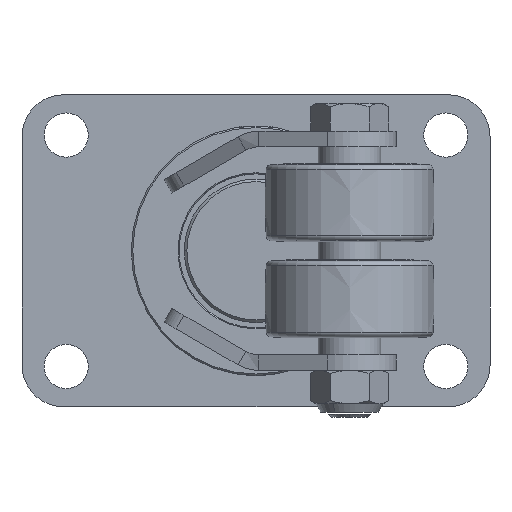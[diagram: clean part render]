
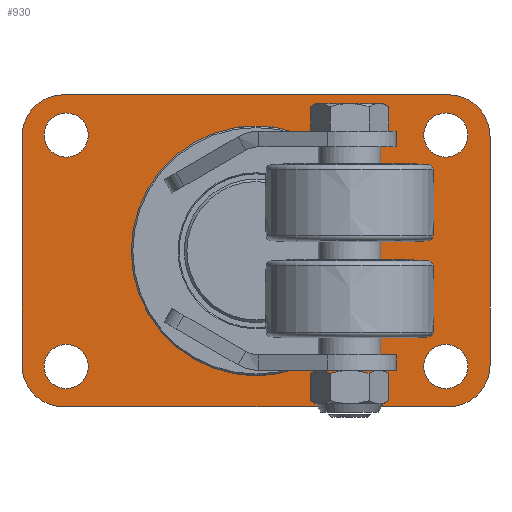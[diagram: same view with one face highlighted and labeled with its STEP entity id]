
A CAD part, front view. The second image highlights one B-rep face of the part: STEP entity #930.
In plain terms, the highlighted planar face has unit normal (0, -1, 0).
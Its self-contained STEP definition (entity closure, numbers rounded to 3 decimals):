
#204=CARTESIAN_POINT('',(0.,-4.,0.));
#205=DIRECTION('',(0.,-1.,0.));
#206=DIRECTION('',(-1.,0.,0.));
#207=AXIS2_PLACEMENT_3D('',#204,#205,#206);
#209=CARTESIAN_POINT('',(0.,-4.,0.));
#210=DIRECTION('',(0.,-1.,0.));
#211=DIRECTION('',(1.,0.,0.));
#212=AXIS2_PLACEMENT_3D('',#209,#210,#211);
#214=CARTESIAN_POINT('',(-36.5,-4.,-22.25));
#215=DIRECTION('',(0.,1.,0.));
#216=DIRECTION('',(1.,0.,0.));
#217=AXIS2_PLACEMENT_3D('',#214,#215,#216);
#219=CARTESIAN_POINT('',(-36.5,-4.,-22.25));
#220=DIRECTION('',(0.,1.,0.));
#221=DIRECTION('',(-1.,0.,0.));
#222=AXIS2_PLACEMENT_3D('',#219,#220,#221);
#224=CARTESIAN_POINT('',(-36.5,-4.,22.25));
#225=DIRECTION('',(0.,1.,0.));
#226=DIRECTION('',(1.,0.,0.));
#227=AXIS2_PLACEMENT_3D('',#224,#225,#226);
#229=CARTESIAN_POINT('',(-36.5,-4.,22.25));
#230=DIRECTION('',(0.,1.,0.));
#231=DIRECTION('',(-1.,0.,0.));
#232=AXIS2_PLACEMENT_3D('',#229,#230,#231);
#234=CARTESIAN_POINT('',(36.5,-4.,22.25));
#235=DIRECTION('',(0.,1.,0.));
#236=DIRECTION('',(1.,0.,0.));
#237=AXIS2_PLACEMENT_3D('',#234,#235,#236);
#239=CARTESIAN_POINT('',(36.5,-4.,22.25));
#240=DIRECTION('',(0.,1.,0.));
#241=DIRECTION('',(-1.,0.,0.));
#242=AXIS2_PLACEMENT_3D('',#239,#240,#241);
#244=CARTESIAN_POINT('',(36.5,-4.,-22.25));
#245=DIRECTION('',(0.,1.,0.));
#246=DIRECTION('',(1.,0.,0.));
#247=AXIS2_PLACEMENT_3D('',#244,#245,#246);
#249=CARTESIAN_POINT('',(36.5,-4.,-22.25));
#250=DIRECTION('',(0.,1.,0.));
#251=DIRECTION('',(-1.,0.,0.));
#252=AXIS2_PLACEMENT_3D('',#249,#250,#251);
#254=CARTESIAN_POINT('',(-37.,-4.,-22.));
#255=DIRECTION('',(0.,-1.,0.));
#256=DIRECTION('',(-1.,0.,0.));
#257=AXIS2_PLACEMENT_3D('',#254,#255,#256);
#259=DIRECTION('',(0.,0.,-1.));
#260=VECTOR('',#259,44.);
#261=CARTESIAN_POINT('',(-45.,-4.,22.));
#262=LINE('',#261,#260);
#263=CARTESIAN_POINT('',(-37.,-4.,22.));
#264=DIRECTION('',(0.,-1.,0.));
#265=DIRECTION('',(0.,0.,1.));
#266=AXIS2_PLACEMENT_3D('',#263,#264,#265);
#268=DIRECTION('',(-1.,0.,0.));
#269=VECTOR('',#268,74.);
#270=CARTESIAN_POINT('',(37.,-4.,30.));
#271=LINE('',#270,#269);
#272=CARTESIAN_POINT('',(37.,-4.,22.));
#273=DIRECTION('',(0.,-1.,0.));
#274=DIRECTION('',(1.,0.,0.));
#275=AXIS2_PLACEMENT_3D('',#272,#273,#274);
#277=DIRECTION('',(0.,0.,1.));
#278=VECTOR('',#277,44.);
#279=CARTESIAN_POINT('',(45.,-4.,-22.));
#280=LINE('',#279,#278);
#281=CARTESIAN_POINT('',(37.,-4.,-22.));
#282=DIRECTION('',(0.,-1.,0.));
#283=DIRECTION('',(0.,0.,-1.));
#284=AXIS2_PLACEMENT_3D('',#281,#282,#283);
#286=DIRECTION('',(1.,0.,0.));
#287=VECTOR('',#286,74.);
#288=CARTESIAN_POINT('',(-37.,-4.,-30.));
#289=LINE('',#288,#287);
#352=CARTESIAN_POINT('',(-32.25,-4.,-22.25));
#353=VERTEX_POINT('',#352);
#354=CARTESIAN_POINT('',(-40.75,-4.,-22.25));
#355=VERTEX_POINT('',#354);
#356=CARTESIAN_POINT('',(-32.25,-4.,22.25));
#357=VERTEX_POINT('',#356);
#358=CARTESIAN_POINT('',(-40.75,-4.,22.25));
#359=VERTEX_POINT('',#358);
#360=CARTESIAN_POINT('',(40.75,-4.,22.25));
#361=VERTEX_POINT('',#360);
#362=CARTESIAN_POINT('',(32.25,-4.,22.25));
#363=VERTEX_POINT('',#362);
#364=CARTESIAN_POINT('',(40.75,-4.,-22.25));
#365=VERTEX_POINT('',#364);
#366=CARTESIAN_POINT('',(32.25,-4.,-22.25));
#367=VERTEX_POINT('',#366);
#372=CARTESIAN_POINT('',(-45.,-4.,-22.));
#373=VERTEX_POINT('',#372);
#374=CARTESIAN_POINT('',(-37.,-4.,-30.));
#375=VERTEX_POINT('',#374);
#380=CARTESIAN_POINT('',(-37.,-4.,30.));
#381=VERTEX_POINT('',#380);
#382=CARTESIAN_POINT('',(-45.,-4.,22.));
#383=VERTEX_POINT('',#382);
#388=CARTESIAN_POINT('',(45.,-4.,22.));
#389=VERTEX_POINT('',#388);
#390=CARTESIAN_POINT('',(37.,-4.,30.));
#391=VERTEX_POINT('',#390);
#396=CARTESIAN_POINT('',(37.,-4.,-30.));
#397=VERTEX_POINT('',#396);
#398=CARTESIAN_POINT('',(45.,-4.,-22.));
#399=VERTEX_POINT('',#398);
#400=CARTESIAN_POINT('',(-23.6,-4.,0.));
#401=CARTESIAN_POINT('',(23.6,-4.,0.));
#402=VERTEX_POINT('',#400);
#403=VERTEX_POINT('',#401);
#893=CARTESIAN_POINT('',(0.,-4.,0.));
#894=DIRECTION('',(0.,-1.,0.));
#895=DIRECTION('',(-1.,0.,0.));
#896=AXIS2_PLACEMENT_3D('',#893,#894,#895);
#897=PLANE('',#896);
#898=ORIENTED_EDGE('',*,*,#820,.F.);
#899=ORIENTED_EDGE('',*,*,#801,.F.);
#900=ORIENTED_EDGE('',*,*,#840,.F.);
#901=ORIENTED_EDGE('',*,*,#779,.F.);
#902=ORIENTED_EDGE('',*,*,#860,.F.);
#903=ORIENTED_EDGE('',*,*,#757,.F.);
#904=ORIENTED_EDGE('',*,*,#880,.F.);
#905=ORIENTED_EDGE('',*,*,#732,.F.);
#906=EDGE_LOOP('',(#898,#899,#900,#901,#902,#903,#904,#905));
#907=FACE_OUTER_BOUND('',#906,.F.);
#908=ORIENTED_EDGE('',*,*,#565,.F.);
#909=ORIENTED_EDGE('',*,*,#586,.F.);
#910=EDGE_LOOP('',(#908,#909));
#911=FACE_BOUND('',#910,.F.);
#912=ORIENTED_EDGE('',*,*,#607,.F.);
#913=ORIENTED_EDGE('',*,*,#628,.F.);
#914=EDGE_LOOP('',(#912,#913));
#915=FACE_BOUND('',#914,.F.);
#916=ORIENTED_EDGE('',*,*,#649,.F.);
#917=ORIENTED_EDGE('',*,*,#670,.F.);
#918=EDGE_LOOP('',(#916,#917));
#919=FACE_BOUND('',#918,.F.);
#920=ORIENTED_EDGE('',*,*,#691,.F.);
#921=ORIENTED_EDGE('',*,*,#712,.F.);
#922=EDGE_LOOP('',(#920,#921));
#923=FACE_BOUND('',#922,.F.);
#925=ORIENTED_EDGE('',*,*,#924,.T.);
#927=ORIENTED_EDGE('',*,*,#926,.T.);
#928=EDGE_LOOP('',(#925,#927));
#929=FACE_BOUND('',#928,.F.);
#208=CIRCLE('',#207,23.6);
#213=CIRCLE('',#212,23.6);
#218=CIRCLE('',#217,4.25);
#223=CIRCLE('',#222,4.25);
#228=CIRCLE('',#227,4.25);
#233=CIRCLE('',#232,4.25);
#238=CIRCLE('',#237,4.25);
#243=CIRCLE('',#242,4.25);
#248=CIRCLE('',#247,4.25);
#253=CIRCLE('',#252,4.25);
#258=CIRCLE('',#257,8.);
#267=CIRCLE('',#266,8.);
#276=CIRCLE('',#275,8.);
#285=CIRCLE('',#284,8.);
#565=EDGE_CURVE('',#353,#355,#218,.T.);
#586=EDGE_CURVE('',#355,#353,#223,.T.);
#607=EDGE_CURVE('',#357,#359,#228,.T.);
#628=EDGE_CURVE('',#359,#357,#233,.T.);
#649=EDGE_CURVE('',#361,#363,#238,.T.);
#670=EDGE_CURVE('',#363,#361,#243,.T.);
#691=EDGE_CURVE('',#365,#367,#248,.T.);
#712=EDGE_CURVE('',#367,#365,#253,.T.);
#732=EDGE_CURVE('',#375,#397,#289,.T.);
#757=EDGE_CURVE('',#399,#389,#280,.T.);
#779=EDGE_CURVE('',#391,#381,#271,.T.);
#801=EDGE_CURVE('',#383,#373,#262,.T.);
#820=EDGE_CURVE('',#373,#375,#258,.T.);
#840=EDGE_CURVE('',#381,#383,#267,.T.);
#860=EDGE_CURVE('',#389,#391,#276,.T.);
#880=EDGE_CURVE('',#397,#399,#285,.T.);
#924=EDGE_CURVE('',#402,#403,#208,.T.);
#926=EDGE_CURVE('',#403,#402,#213,.T.);
#930=ADVANCED_FACE('',(#907,#911,#915,#919,#923,#929),#897,.T.);
